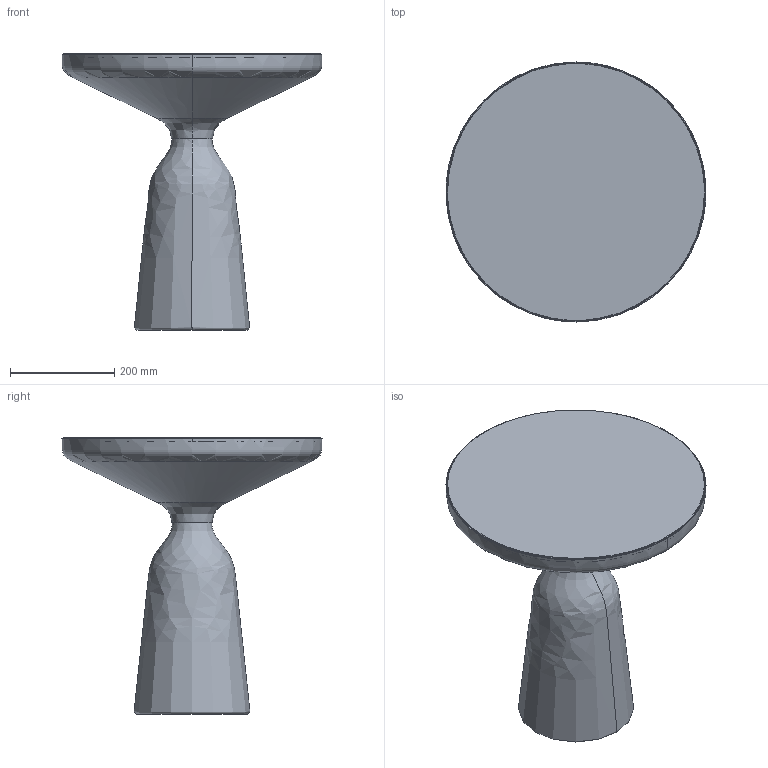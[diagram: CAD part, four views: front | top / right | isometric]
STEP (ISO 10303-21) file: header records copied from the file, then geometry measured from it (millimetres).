
FILE_DESCRIPTION(/* description */ (''),/* implementation_level */ '2;1');
FILE_NAME(/* name */ 'SH_BELL-SIDETABLE_3DL_20230703',/* time_stamp */ '2023-07-04T08:37:01+02:00',/* author */ (''),/* organization */ (''),/* preprocessor_version */ 'ST-DEVELOPER v16.5',/* originating_system */ 'Rhino 7.29',/* authorisation */ '');
FILE_SCHEMA (('CONFIG_CONTROL_DESIGN'));
Length unit declared in the file: millimetre
Products named in the file (1): Document
Bounding box: 498.35 x 499 x 530.92 mm (x, y, z)
Volume: 24248183.7 mm3; surface area: 1122235.4 mm2
Topology: 3 solids, 3 shells, 22 faces, 40 edges, 23 vertices
Faces by surface type: bspline 12, plane 6, cylinder 4
Entity records: 1314 total; most frequent: CARTESIAN_POINT 977, ORIENTED_EDGE 76, EDGE_CURVE 38, EDGE_LOOP 23, VERTEX_POINT 23, ADVANCED_FACE 22, FACE_OUTER_BOUND 22, DIRECTION 14
